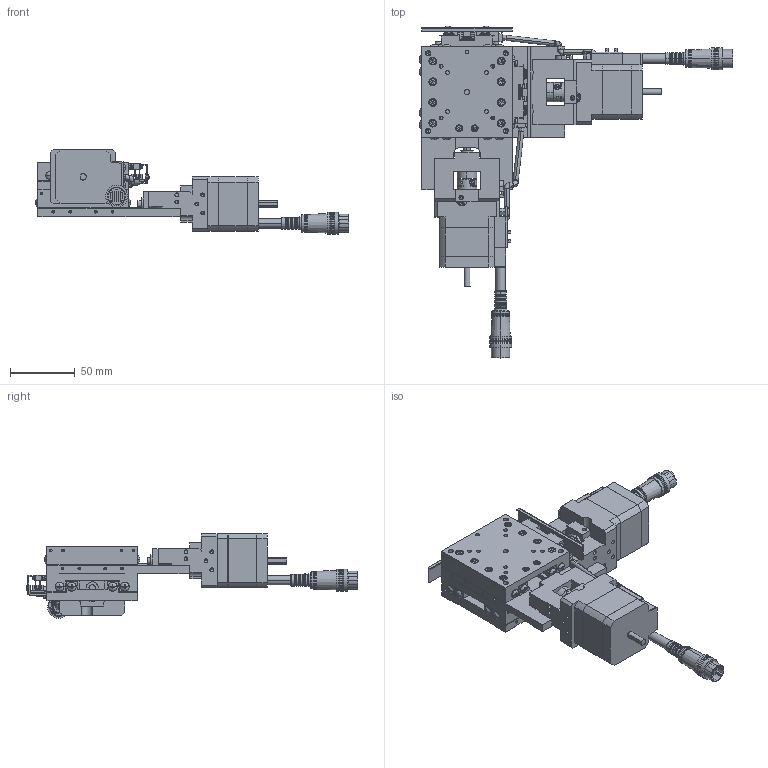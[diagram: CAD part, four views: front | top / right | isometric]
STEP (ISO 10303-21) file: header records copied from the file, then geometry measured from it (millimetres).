
FILE_DESCRIPTION (( 'STEP AP203' ), '1' );
FILE_NAME ('YA07A-R103.STEP', '2019-02-26T08:46:44', ( '' ), ( '' ), 'SwSTEP 2.0', 'SolidWorks 2018', '' );
FILE_SCHEMA (( 'CONFIG_CONTROL_DESIGN' ));
Length unit declared in the file: millimetre
Products named in the file (10): base-Part-3; second table-Part-1; YA07A-R103; base-Part-1; second table-Part-3; second table-Part-2; base-Part-2; second table; base; table
Assembly tree (9 placements, depth 3):
  YA07A-R103
    second table
      second table-Part-1
      second table-Part-2
      second table-Part-3
    base
      base-Part-1
      base-Part-2
      base-Part-3
    table
Bounding box: 242.39 x 256.68 x 65.5 mm (x, y, z)
Volume: 455843.3 mm3; surface area: 154029.9 mm2
Topology: 7 solids, 7 shells, 4177 faces, 10421 edges, 6384 vertices
Faces by surface type: plane 2375, cylinder 1046, cone 580, torus 108, sphere 68
Entity records: 125367 total; most frequent: CARTESIAN_POINT 22970, DIRECTION 22143, ORIENTED_EDGE 20458, EDGE_CURVE 10229, AXIS2_PLACEMENT_3D 7997, VERTEX_POINT 6372, LINE 6149, VECTOR 6149
